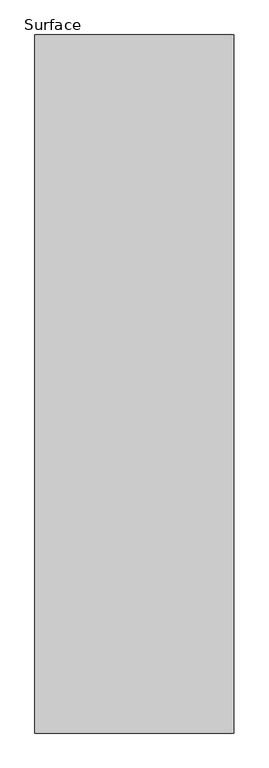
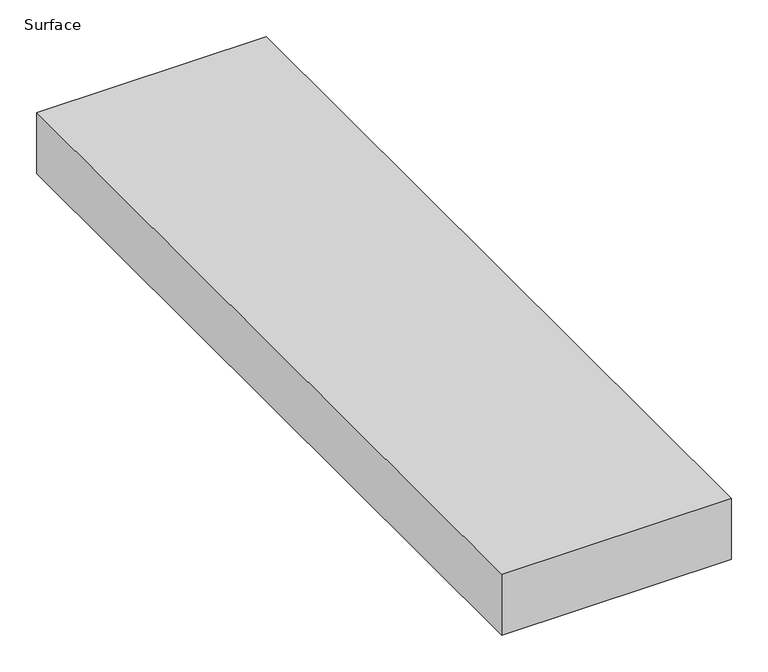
"""IFC4 building model written with IfcOpenShell, lengths in millimetres: proxy geometry, BA_EQ - Load Center : Surface."""

import ifcopenshell
import ifcopenshell.guid

model = None  # the IFC model being written
_history = None  # IfcOwnerHistory: only IFC2X3 demands one
_inside = {}  # id of a spatial element -> (the spatial element, [elements in it])
_under = {}  # id of a project, library or spatial element -> (it, [spatial elements below it])
_declared = {}  # id of a project -> (the project, [libraries it declares])
_typed = {}  # id of a type object -> (the type object, [elements of that type])
_made_of = {}  # id of a material, layer set ... -> (it, [elements and type objects made of it])


def new_model(schema):
    """Start an empty IFC model of exactly this schema.

    Asked for "IFC4X3", IfcOpenShell would pick the latest addendum, in which some entities
    have other attributes; the version numbers below select the first issue.
    IFC2X3 requires an IfcOwnerHistory on every rooted entity: one is made here for all.
    """
    global model, _history
    if schema == "IFC4X3":
        model = ifcopenshell.file(schema_version=(4, 3, 0, 0))
    else:
        model = ifcopenshell.file(schema=schema)
    _inside.clear()
    _under.clear()
    _declared.clear()
    _typed.clear()
    _made_of.clear()
    _history = None
    if model.schema == "IFC2X3":
        org = make("IfcOrganization", Name="unknown")
        user = make(
            "IfcPersonAndOrganization",
            ThePerson=make("IfcPerson", FamilyName="unknown"),
            TheOrganization=org,
        )
        app = make(
            "IfcApplication",
            ApplicationDeveloper=org,
            Version="unknown",
            ApplicationFullName="unknown",
            ApplicationIdentifier="unknown",
        )
        _history = make(
            "IfcOwnerHistory",
            OwningUser=user,
            OwningApplication=app,
            ChangeAction="ADDED",
            CreationDate=0,
        )
    return model


def make(cls, **values):
    """One entity of the class cls with the attributes given. An attribute that is None is left unset."""
    return model.create_entity(
        cls, **{name: value for name, value in values.items() if value is not None}
    )


def rooted(cls, **values):
    """An entity with a GlobalId (a new one), such as an element, a storey or a relation."""
    return make(cls, GlobalId=ifcopenshell.guid.new(), OwnerHistory=_history, **values)


def si_unit(unit_type, name, prefix=None):
    """IfcSIUnit, for example si_unit("LENGTHUNIT", "METRE", prefix="MILLI")."""
    return make("IfcSIUnit", UnitType=unit_type, Prefix=prefix, Name=name)


def assignment(units):
    """IfcUnitAssignment: the units of a project."""
    return None if units is None else make("IfcUnitAssignment", Units=units)


def point(xyz):
    """IfcCartesianPoint."""
    return None if xyz is None else make("IfcCartesianPoint", Coordinates=xyz)


def direction(xyz):
    """IfcDirection."""
    return None if xyz is None else make("IfcDirection", DirectionRatios=xyz)


def frame(location, z_axis=None, x_axis=None):
    """IfcAxis2Placement3D, a coordinate frame: its origin and axes. An axis left out is left unset."""
    return make(
        "IfcAxis2Placement3D",
        Location=point(location),
        Axis=direction(z_axis),
        RefDirection=direction(x_axis),
    )


def origin():
    """The frame at (0, 0, 0) with its axes left unset."""
    return frame((0.0, 0.0, 0.0))


def origin_with_axes():
    """The frame at (0, 0, 0) with the z axis (0, 0, 1) and the x axis (1, 0, 0) written out."""
    return frame((0.0, 0.0, 0.0), z_axis=(0.0, 0.0, 1.0), x_axis=(1.0, 0.0, 0.0))


def place(relative_to, where):
    """IfcLocalPlacement: puts the frame where relative to a parent placement (None: the world)."""
    return make(
        "IfcLocalPlacement", PlacementRelTo=relative_to, RelativePlacement=where
    )


def context(
    kind, dimensions, precision=None, world=None, true_north=None, identifier=None
):
    """IfcGeometricRepresentationContext, for example the 3D "Model" context."""
    return make(
        "IfcGeometricRepresentationContext",
        ContextIdentifier=identifier,
        ContextType=kind,
        CoordinateSpaceDimension=dimensions,
        Precision=precision,
        WorldCoordinateSystem=world,
        TrueNorth=true_north,
    )


def project(units=None, contexts=None):
    """IfcProject with its units and contexts."""
    return rooted(
        "IfcProject",
        Name="project",
        RepresentationContexts=contexts,
        UnitsInContext=assignment(units),
    )


def spatial(cls, under=None, at=None, **own):
    """A site, building, storey or space (cls), placed at a placement, below another one or the project."""
    s = rooted(cls, ObjectPlacement=at, **own)
    if under is not None:
        _under.setdefault(under.id(), (under, []))[1].append(s)
    return s


def polyline(points):
    """IfcPolyline through the points."""
    return make("IfcPolyline", Points=[point(p) for p in points])


def outline(outer, holes=None, kind="AREA"):
    """IfcArbitraryClosedProfileDef: a profile drawn as a closed curve; with holes, ...WithVoids."""
    if holes is None:
        return make("IfcArbitraryClosedProfileDef", ProfileType=kind, OuterCurve=outer)
    return make(
        "IfcArbitraryProfileDefWithVoids",
        ProfileType=kind,
        OuterCurve=outer,
        InnerCurves=holes,
    )


def extrude(swept, where, along, depth):
    """IfcExtrudedAreaSolid: the profile swept, set in the frame where, extruded along a direction by depth."""
    return make(
        "IfcExtrudedAreaSolid",
        SweptArea=swept,
        Position=where,
        ExtrudedDirection=direction(along),
        Depth=depth,
    )


def shape(context_of_items, identifier, shape_type, items):
    """IfcShapeRepresentation: the items that make up one representation, for example the "Body"."""
    return make(
        "IfcShapeRepresentation",
        ContextOfItems=context_of_items,
        RepresentationIdentifier=identifier,
        RepresentationType=shape_type,
        Items=items,
    )


def source(mapping_origin, context_of_items, identifier, shape_type, items):
    """IfcRepresentationMap: a shape defined once, which mapped items show again and again."""
    return make(
        "IfcRepresentationMap",
        MappingOrigin=mapping_origin,
        MappedRepresentation=shape(context_of_items, identifier, shape_type, items),
    )


def transform(
    local_origin,
    x_axis=None,
    y_axis=None,
    z_axis=None,
    scale=None,
    scale2=None,
    scale3=None,
    uniform=True,
):
    """IfcCartesianTransformationOperator3D, or its non-uniform kind. x_axis, y_axis, z_axis: its Axis1, 2, 3."""
    if uniform:
        return make(
            "IfcCartesianTransformationOperator3D",
            Axis1=direction(x_axis),
            Axis2=direction(y_axis),
            LocalOrigin=point(local_origin),
            Scale=scale,
            Axis3=direction(z_axis),
        )
    return make(
        "IfcCartesianTransformationOperator3DnonUniform",
        Axis1=direction(x_axis),
        Axis2=direction(y_axis),
        LocalOrigin=point(local_origin),
        Scale=scale,
        Axis3=direction(z_axis),
        Scale2=scale2,
        Scale3=scale3,
    )


def mapped(mapping_source, mapping_target):
    """IfcMappedItem: shows the shape of a source again, moved by a transform."""
    return make(
        "IfcMappedItem", MappingSource=mapping_source, MappingTarget=mapping_target
    )


def made_of(thing, what):
    """Note that an element or type object is made of a material, layer set ...; save() writes the relation."""
    if what is not None:
        _made_of.setdefault(what.id(), (what, []))[1].append(thing)
    return thing


def element(
    cls,
    number,
    at=None,
    inside=None,
    cuts=None,
    type_object=None,
    material=None,
    context=None,
    identifier="Body",
    shape_type=None,
    held_by="IfcProductDefinitionShape",
    body=None,
    shapes=None,
    **own,
):
    """One element of the class cls, such as IfcWall. Its Tag is "e" and its number.

    at: its placement. inside: the storey or other place that contains it. cuts: it is an
    opening in that element (IfcRelVoidsElement). A single representation is given by context,
    identifier, shape_type and body (its items); several are given by shapes. held_by: the class
    of the entity that holds the representations. save() writes the other relations.
    """
    e = rooted(cls, Tag="e%d" % number, ObjectPlacement=at, **own)
    if body is not None:
        shapes = [shape(context, identifier, shape_type, body)]
    if shapes is not None:
        e.Representation = make(held_by, Representations=shapes)
    if inside is not None:
        _inside.setdefault(inside.id(), (inside, []))[1].append(e)
    if cuts is not None:
        rooted(
            "IfcRelVoidsElement", RelatingBuildingElement=cuts, RelatedOpeningElement=e
        )
    if type_object is not None:
        _typed.setdefault(type_object.id(), (type_object, []))[1].append(e)
    return made_of(e, material)


def aggregate(whole, parts):
    """IfcRelAggregates: a whole, such as a stair, and the parts it consists of."""
    return rooted("IfcRelAggregates", RelatingObject=whole, RelatedObjects=parts)


def save(model, path):
    """Write the relations noted so far, then the file.

    IfcRelAggregates (storeys below a building ...), IfcRelContainedInSpatialStructure (elements
    in a storey), IfcRelDefinesByType, IfcRelAssociatesMaterial and IfcRelDeclares: one each for
    every whole, place, type object, material and project.
    """
    for whole, parts in _under.values():
        aggregate(whole, parts)
    for where, things in _inside.values():
        rooted(
            "IfcRelContainedInSpatialStructure",
            RelatedElements=things,
            RelatingStructure=where,
        )
    for kind, things in _typed.values():
        rooted("IfcRelDefinesByType", RelatedObjects=things, RelatingType=kind)
    for what, things in _made_of.values():
        rooted("IfcRelAssociatesMaterial", RelatedObjects=things, RelatingMaterial=what)
    for by, libraries in _declared.values():
        rooted("IfcRelDeclares", RelatingContext=by, RelatedDefinitions=libraries)
    model.write(path)


def surface_b9440dc5(model_context):
    return source(origin(), model_context, "Body", "SweptSolid", [
        extrude(outline(polyline([(180.975, 1854.2), (180.975, 584.2), (-180.975, 584.2), (-180.975, 1854.2), (180.975, 1854.2)])), origin_with_axes(), (0.0, 0.0, 1.0), 101.6),
    ])


if __name__ == "__main__":
    model = new_model("IFC4")
    model_context = context("Model", 3, world=origin())
    ifc_project = project(units=[si_unit("LENGTHUNIT", "METRE", prefix="MILLI")], contexts=[model_context])
    site = spatial("IfcSite", under=ifc_project)
    building = spatial("IfcBuilding", under=site)
    placement = place(None, origin())
    surface_shape = surface_b9440dc5(model_context)
    element("IfcBuildingElementProxy", 1, Name="BA_EQ - Load Center : Surface", ObjectType="BA_EQ - Load Center : Surface", at=placement, inside=building, context=model_context, shape_type="MappedRepresentation", body=[
        mapped(surface_shape, transform((0.0, 0.0, 0.0), x_axis=(1.0, 0.0, 0.0), y_axis=(0.0, 1.0, 0.0), z_axis=(0.0, 0.0, 1.0))),
    ])
    save(model, "model.ifc")
